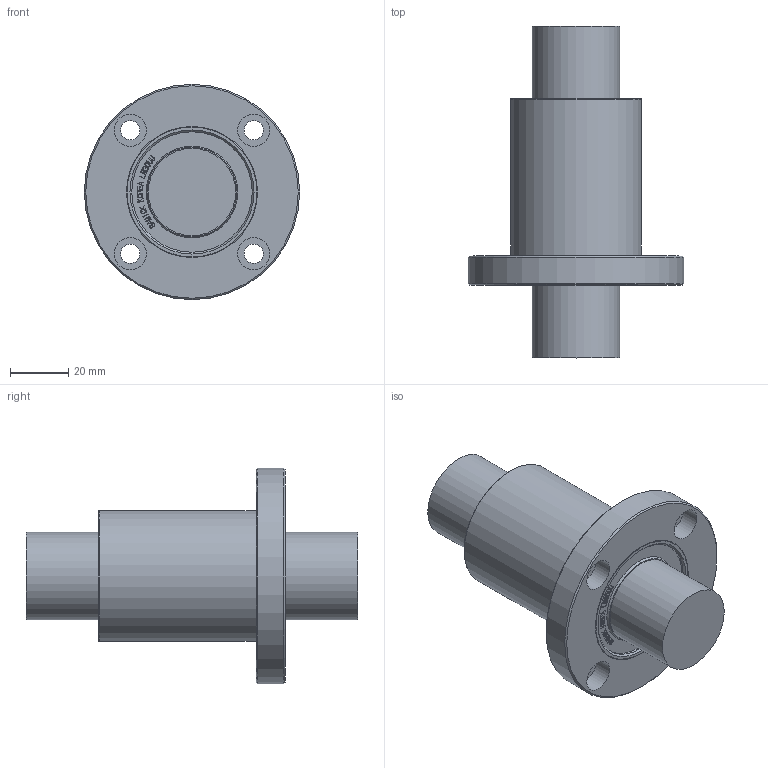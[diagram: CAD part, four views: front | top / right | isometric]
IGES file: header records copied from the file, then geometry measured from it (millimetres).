
Global section: file name: No Iges File Name specified; native system: Autodesk Inventor 2012; preprocessor: AutoDesk Inventor Iges Exporter R2012; author: user2; date: 20130206.160354; units: millimetre
Bounding box: 74 x 114 x 74 mm (x, y, z)
Volume: 159602.5 mm3; surface area: 24553.2 mm2
Topology: 1 solids, 1 shells, 861 faces, 2405 edges, 1602 vertices
Faces by surface type: bspline 616, plane 222, revolution 13, cone 4, cylinder 4, torus 2
Full cylindrical faces by diameter (mm): 30 x2, 45 x1, 74 x1
